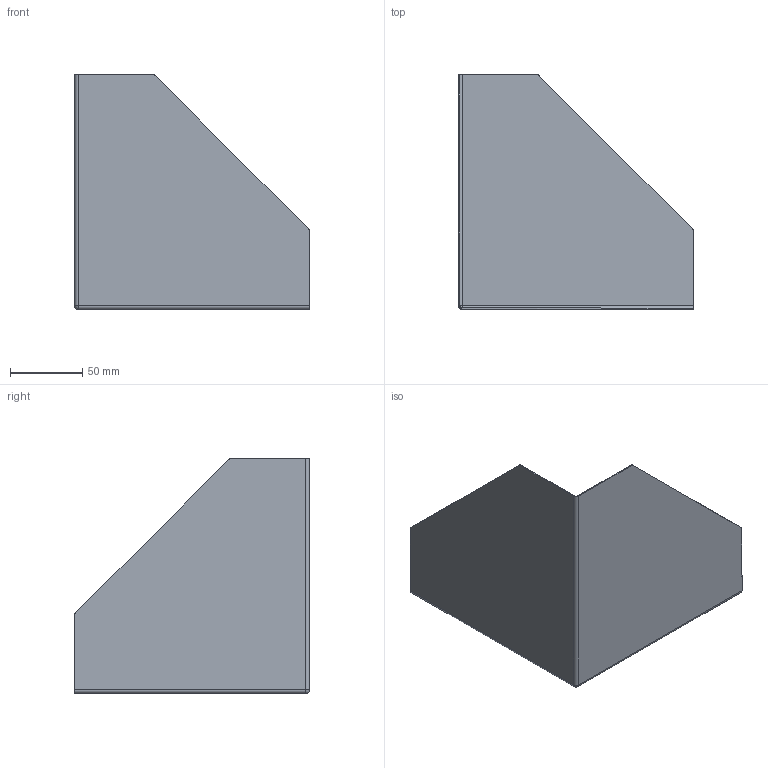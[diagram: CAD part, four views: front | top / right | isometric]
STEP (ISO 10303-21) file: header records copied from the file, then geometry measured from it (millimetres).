
FILE_DESCRIPTION (( 'STEP AP203' ), '1' );
FILE_NAME ('FDPCG013D_2_90.step', '2019-09-11T19:51:39', ( 'ydmin' ), ( '' ), 'SwSTEP 2.0', 'SolidWorks 2017', '' );
FILE_SCHEMA (( 'CONFIG_CONTROL_DESIGN' ));
Length unit declared in the file: inch
Products named in the file (1): FDPCG013D_2_90
Bounding box: 161.93 x 161.93 x 161.93 mm (x, y, z)
Volume: 48226.7 mm3; surface area: 122134.1 mm2
Topology: 1 solids, 1 shells, 26 faces, 68 edges, 42 vertices
Faces by surface type: plane 12, cylinder 12, bspline 2
Entity records: 887 total; most frequent: CARTESIAN_POINT 165, DIRECTION 140, ORIENTED_EDGE 132, EDGE_CURVE 66, AXIS2_PLACEMENT_3D 49, VECTOR 42, VERTEX_POINT 42, LINE 42
